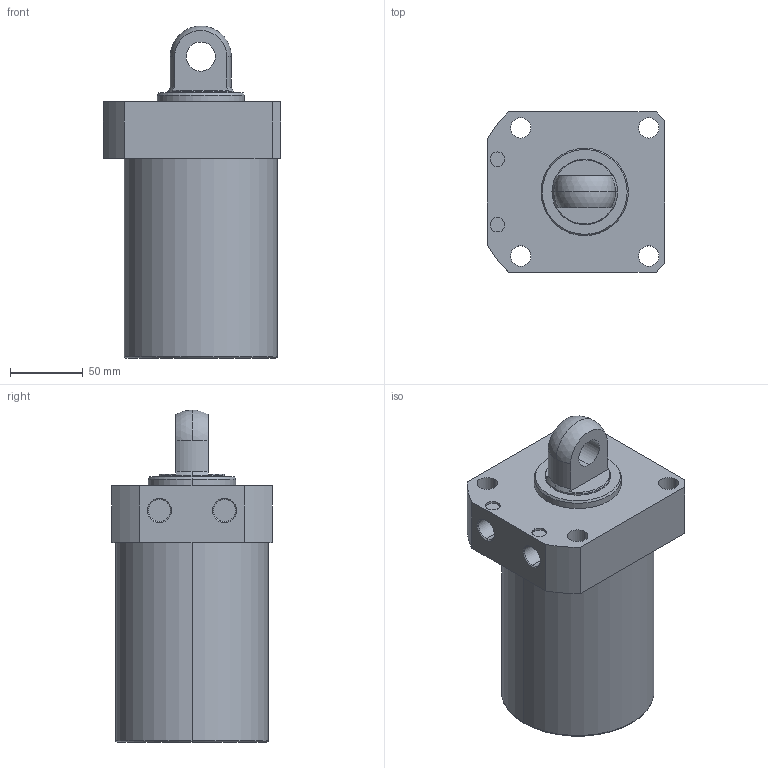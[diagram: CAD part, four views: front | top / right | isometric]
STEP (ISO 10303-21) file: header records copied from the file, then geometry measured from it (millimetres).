
FILE_DESCRIPTION (( 'STEP AP203' ), '1' );
FILE_NAME ('CLLR-105CP-090.STEP', '2019-12-18T08:03:56', ( '' ), ( '' ), 'SwSTEP 2.0', 'SolidWorks 2015', '' );
FILE_SCHEMA (( 'CONFIG_CONTROL_DESIGN' ));
Length unit declared in the file: millimetre
Products named in the file (1): CLLR-105CP-090
Bounding box: 122 x 110 x 228 mm (x, y, z)
Volume: 1712388.2 mm3; surface area: 102718.7 mm2
Topology: 1 solids, 1 shells, 59 faces, 139 edges, 89 vertices
Faces by surface type: cylinder 29, plane 18, cone 8, torus 2, sphere 2
Entity records: 1822 total; most frequent: DIRECTION 331, CARTESIAN_POINT 300, ORIENTED_EDGE 278, EDGE_CURVE 139, AXIS2_PLACEMENT_3D 136, VERTEX_POINT 89, EDGE_LOOP 76, CIRCLE 76
